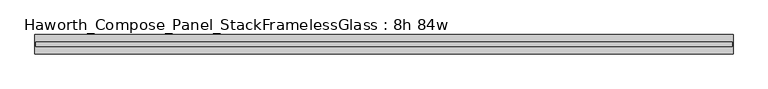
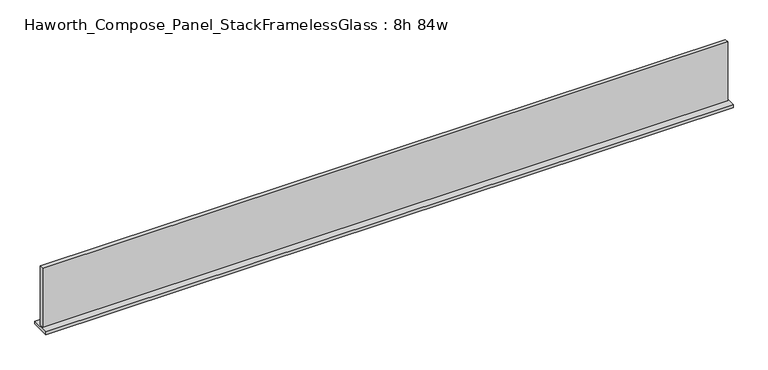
"""IFC4 building model written with IfcOpenShell, lengths in millimetres: furniture geometry, Haworth_Compose_Panel_StackFramelessGlass : 8h 84w."""

import ifcopenshell
import ifcopenshell.guid

model = None  # the IFC model being written
_history = None  # IfcOwnerHistory: only IFC2X3 demands one
_inside = {}  # id of a spatial element -> (the spatial element, [elements in it])
_under = {}  # id of a project, library or spatial element -> (it, [spatial elements below it])
_declared = {}  # id of a project -> (the project, [libraries it declares])
_typed = {}  # id of a type object -> (the type object, [elements of that type])
_made_of = {}  # id of a material, layer set ... -> (it, [elements and type objects made of it])


def new_model(schema):
    """Start an empty IFC model of exactly this schema.

    Asked for "IFC4X3", IfcOpenShell would pick the latest addendum, in which some entities
    have other attributes; the version numbers below select the first issue.
    IFC2X3 requires an IfcOwnerHistory on every rooted entity: one is made here for all.
    """
    global model, _history
    if schema == "IFC4X3":
        model = ifcopenshell.file(schema_version=(4, 3, 0, 0))
    else:
        model = ifcopenshell.file(schema=schema)
    _inside.clear()
    _under.clear()
    _declared.clear()
    _typed.clear()
    _made_of.clear()
    _history = None
    if model.schema == "IFC2X3":
        org = make("IfcOrganization", Name="unknown")
        user = make(
            "IfcPersonAndOrganization",
            ThePerson=make("IfcPerson", FamilyName="unknown"),
            TheOrganization=org,
        )
        app = make(
            "IfcApplication",
            ApplicationDeveloper=org,
            Version="unknown",
            ApplicationFullName="unknown",
            ApplicationIdentifier="unknown",
        )
        _history = make(
            "IfcOwnerHistory",
            OwningUser=user,
            OwningApplication=app,
            ChangeAction="ADDED",
            CreationDate=0,
        )
    return model


def make(cls, **values):
    """One entity of the class cls with the attributes given. An attribute that is None is left unset."""
    return model.create_entity(
        cls, **{name: value for name, value in values.items() if value is not None}
    )


def rooted(cls, **values):
    """An entity with a GlobalId (a new one), such as an element, a storey or a relation."""
    return make(cls, GlobalId=ifcopenshell.guid.new(), OwnerHistory=_history, **values)


def si_unit(unit_type, name, prefix=None):
    """IfcSIUnit, for example si_unit("LENGTHUNIT", "METRE", prefix="MILLI")."""
    return make("IfcSIUnit", UnitType=unit_type, Prefix=prefix, Name=name)


def assignment(units):
    """IfcUnitAssignment: the units of a project."""
    return None if units is None else make("IfcUnitAssignment", Units=units)


def point(xyz):
    """IfcCartesianPoint."""
    return None if xyz is None else make("IfcCartesianPoint", Coordinates=xyz)


def direction(xyz):
    """IfcDirection."""
    return None if xyz is None else make("IfcDirection", DirectionRatios=xyz)


def frame(location, z_axis=None, x_axis=None):
    """IfcAxis2Placement3D, a coordinate frame: its origin and axes. An axis left out is left unset."""
    return make(
        "IfcAxis2Placement3D",
        Location=point(location),
        Axis=direction(z_axis),
        RefDirection=direction(x_axis),
    )


def origin():
    """The frame at (0, 0, 0) with its axes left unset."""
    return frame((0.0, 0.0, 0.0))


def place(relative_to, where):
    """IfcLocalPlacement: puts the frame where relative to a parent placement (None: the world)."""
    return make(
        "IfcLocalPlacement", PlacementRelTo=relative_to, RelativePlacement=where
    )


def context(
    kind, dimensions, precision=None, world=None, true_north=None, identifier=None
):
    """IfcGeometricRepresentationContext, for example the 3D "Model" context."""
    return make(
        "IfcGeometricRepresentationContext",
        ContextIdentifier=identifier,
        ContextType=kind,
        CoordinateSpaceDimension=dimensions,
        Precision=precision,
        WorldCoordinateSystem=world,
        TrueNorth=true_north,
    )


def project(units=None, contexts=None):
    """IfcProject with its units and contexts."""
    return rooted(
        "IfcProject",
        Name="project",
        RepresentationContexts=contexts,
        UnitsInContext=assignment(units),
    )


def spatial(cls, under=None, at=None, **own):
    """A site, building, storey or space (cls), placed at a placement, below another one or the project."""
    s = rooted(cls, ObjectPlacement=at, **own)
    if under is not None:
        _under.setdefault(under.id(), (under, []))[1].append(s)
    return s


def polyline(points):
    """IfcPolyline through the points."""
    return make("IfcPolyline", Points=[point(p) for p in points])


def outline(outer, holes=None, kind="AREA"):
    """IfcArbitraryClosedProfileDef: a profile drawn as a closed curve; with holes, ...WithVoids."""
    if holes is None:
        return make("IfcArbitraryClosedProfileDef", ProfileType=kind, OuterCurve=outer)
    return make(
        "IfcArbitraryProfileDefWithVoids",
        ProfileType=kind,
        OuterCurve=outer,
        InnerCurves=holes,
    )


def extrude(swept, where, along, depth):
    """IfcExtrudedAreaSolid: the profile swept, set in the frame where, extruded along a direction by depth."""
    return make(
        "IfcExtrudedAreaSolid",
        SweptArea=swept,
        Position=where,
        ExtrudedDirection=direction(along),
        Depth=depth,
    )


def shape(context_of_items, identifier, shape_type, items):
    """IfcShapeRepresentation: the items that make up one representation, for example the "Body"."""
    return make(
        "IfcShapeRepresentation",
        ContextOfItems=context_of_items,
        RepresentationIdentifier=identifier,
        RepresentationType=shape_type,
        Items=items,
    )


def source(mapping_origin, context_of_items, identifier, shape_type, items):
    """IfcRepresentationMap: a shape defined once, which mapped items show again and again."""
    return make(
        "IfcRepresentationMap",
        MappingOrigin=mapping_origin,
        MappedRepresentation=shape(context_of_items, identifier, shape_type, items),
    )


def transform(
    local_origin,
    x_axis=None,
    y_axis=None,
    z_axis=None,
    scale=None,
    scale2=None,
    scale3=None,
    uniform=True,
):
    """IfcCartesianTransformationOperator3D, or its non-uniform kind. x_axis, y_axis, z_axis: its Axis1, 2, 3."""
    if uniform:
        return make(
            "IfcCartesianTransformationOperator3D",
            Axis1=direction(x_axis),
            Axis2=direction(y_axis),
            LocalOrigin=point(local_origin),
            Scale=scale,
            Axis3=direction(z_axis),
        )
    return make(
        "IfcCartesianTransformationOperator3DnonUniform",
        Axis1=direction(x_axis),
        Axis2=direction(y_axis),
        LocalOrigin=point(local_origin),
        Scale=scale,
        Axis3=direction(z_axis),
        Scale2=scale2,
        Scale3=scale3,
    )


def mapped(mapping_source, mapping_target):
    """IfcMappedItem: shows the shape of a source again, moved by a transform."""
    return make(
        "IfcMappedItem", MappingSource=mapping_source, MappingTarget=mapping_target
    )


def made_of(thing, what):
    """Note that an element or type object is made of a material, layer set ...; save() writes the relation."""
    if what is not None:
        _made_of.setdefault(what.id(), (what, []))[1].append(thing)
    return thing


def element(
    cls,
    number,
    at=None,
    inside=None,
    cuts=None,
    type_object=None,
    material=None,
    context=None,
    identifier="Body",
    shape_type=None,
    held_by="IfcProductDefinitionShape",
    body=None,
    shapes=None,
    **own,
):
    """One element of the class cls, such as IfcWall. Its Tag is "e" and its number.

    at: its placement. inside: the storey or other place that contains it. cuts: it is an
    opening in that element (IfcRelVoidsElement). A single representation is given by context,
    identifier, shape_type and body (its items); several are given by shapes. held_by: the class
    of the entity that holds the representations. save() writes the other relations.
    """
    e = rooted(cls, Tag="e%d" % number, ObjectPlacement=at, **own)
    if body is not None:
        shapes = [shape(context, identifier, shape_type, body)]
    if shapes is not None:
        e.Representation = make(held_by, Representations=shapes)
    if inside is not None:
        _inside.setdefault(inside.id(), (inside, []))[1].append(e)
    if cuts is not None:
        rooted(
            "IfcRelVoidsElement", RelatingBuildingElement=cuts, RelatedOpeningElement=e
        )
    if type_object is not None:
        _typed.setdefault(type_object.id(), (type_object, []))[1].append(e)
    return made_of(e, material)


def aggregate(whole, parts):
    """IfcRelAggregates: a whole, such as a stair, and the parts it consists of."""
    return rooted("IfcRelAggregates", RelatingObject=whole, RelatedObjects=parts)


def save(model, path):
    """Write the relations noted so far, then the file.

    IfcRelAggregates (storeys below a building ...), IfcRelContainedInSpatialStructure (elements
    in a storey), IfcRelDefinesByType, IfcRelAssociatesMaterial and IfcRelDeclares: one each for
    every whole, place, type object, material and project.
    """
    for whole, parts in _under.values():
        aggregate(whole, parts)
    for where, things in _inside.values():
        rooted(
            "IfcRelContainedInSpatialStructure",
            RelatedElements=things,
            RelatingStructure=where,
        )
    for kind, things in _typed.values():
        rooted("IfcRelDefinesByType", RelatedObjects=things, RelatingType=kind)
    for what, things in _made_of.values():
        rooted("IfcRelAssociatesMaterial", RelatedObjects=things, RelatingMaterial=what)
    for by, libraries in _declared.values():
        rooted("IfcRelDeclares", RelatingContext=by, RelatedDefinitions=libraries)
    model.write(path)


def haworth_compose_panel_stackframelessglass_8h_84w_97681693(model_context):
    return source(origin(), model_context, "Body", "SweptSolid", [
        extrude(outline(polyline([(1066.0652902, -27.3093594), (-1061.1847098, -27.3093594), (-1061.1847098, -14.6093594), (1066.0652902, -14.6093594), (1066.0652902, -27.3093594)])), frame((0.0, 0.0, 1279.525), z_axis=(0.0, 0.0, 1.0), x_axis=(1.0, 0.0, 0.0)), (0.0, 0.0, 1.0), 193.675),
        extrude(outline(polyline([(-1064.3597098, -50.3281094), (-1064.3597098, 8.4093906), (1069.2402902, 8.4093906), (1069.2402902, -50.3281094), (-1064.3597098, -50.3281094)])), frame((0.0, 0.0, 1270.0), z_axis=(0.0, 0.0, 1.0), x_axis=(1.0, 0.0, 0.0)), (0.0, 0.0, 1.0), 9.525),
    ])


if __name__ == "__main__":
    model = new_model("IFC4")
    model_context = context("Model", 3, world=origin())
    ifc_project = project(units=[si_unit("LENGTHUNIT", "METRE", prefix="MILLI")], contexts=[model_context])
    site = spatial("IfcSite", under=ifc_project)
    building = spatial("IfcBuilding", under=site)
    placement = place(None, origin())
    haworth_compose_panel_stackframelessglass_8h_84w_shape = haworth_compose_panel_stackframelessglass_8h_84w_97681693(model_context)
    element("IfcFurniture", 1, ObjectType="Haworth_Compose_Panel_StackFramelessGlass : 8h 84w", at=placement, inside=building, context=model_context, shape_type="MappedRepresentation", body=[
        mapped(haworth_compose_panel_stackframelessglass_8h_84w_shape, transform((0.0, 0.0, 0.0), x_axis=(1.0, 0.0, 0.0), y_axis=(0.0, 1.0, 0.0), z_axis=(0.0, 0.0, 1.0))),
    ])
    save(model, "model.ifc")
